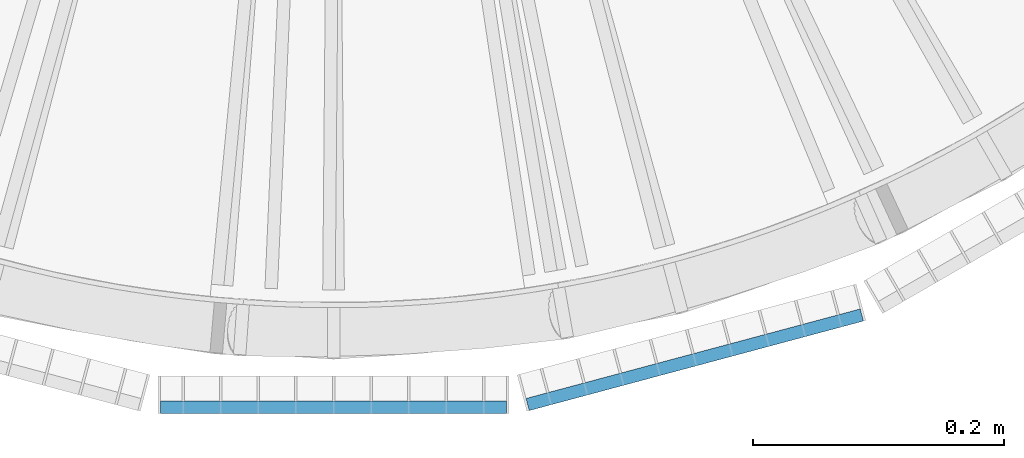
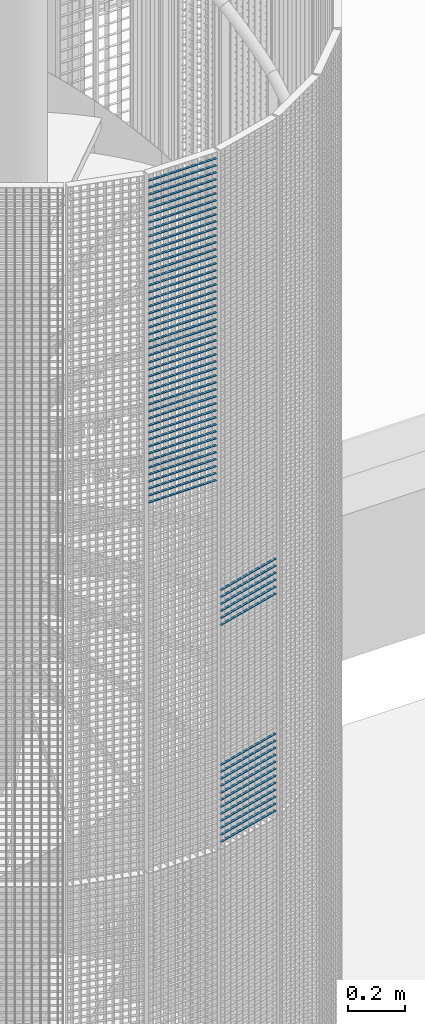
# One storey, part 135 of 1148: 65 beams, 2 elements without a shape of their own.
"""IFC2X3 building model written with IfcOpenShell, lengths in millimetres."""

from ifc_helpers import new_model, si_unit, frame, origin_with_axes, origin_2d_with_axis, place, context, subcontext, project, spatial, rectangle, extrude, material, type_object, element, aggregate, save


model = new_model("IFC2X3")

# Units and contexts
model_context = context("Model", 3, precision=1e-05, world=origin_with_axes())
body_context = subcontext(model_context, "Body", "Model", "MODEL_VIEW")
ifc_project = project(units=[si_unit("LENGTHUNIT", "METRE", prefix="MILLI"), si_unit("AREAUNIT", "SQUARE_METRE"), si_unit("VOLUMEUNIT", "CUBIC_METRE"), si_unit("MASSUNIT", "GRAM", prefix="KILO"), si_unit("TIMEUNIT", "SECOND"), si_unit("PLANEANGLEUNIT", "RADIAN"), si_unit("SOLIDANGLEUNIT", "STERADIAN"), si_unit("THERMODYNAMICTEMPERATUREUNIT", "DEGREE_CELSIUS"), si_unit("LUMINOUSINTENSITYUNIT", "LUMEN")], contexts=[model_context])

# Site, building, storey
site_placement = place(None, origin_with_axes())
site = spatial("IfcSite", under=ifc_project, at=site_placement, Name="Undefined", CompositionType="ELEMENT")
building_placement = place(site_placement, origin_with_axes())
building = spatial("IfcBuilding", under=site, at=building_placement, Name="Undefined", CompositionType="ELEMENT")
storey_placement = place(building_placement, origin_with_axes())
storey = spatial("IfcBuildingStorey", under=building, at=storey_placement, Name="Undefined", CompositionType="ELEMENT", Elevation=0.0)

# Assembly, beams
assembly_1_placement = place(storey_placement, origin_with_axes())
assembly_1 = element("IfcElementAssembly", 1, at=assembly_1_placement, inside=storey, Name="BORDURE", AssemblyPlace="NOTDEFINED", PredefinedType="NOTDEFINED")
ifc_material = material(Name="STEEL/S235JR")
beam_type = type_object("IfcBeamType", Name="PL2*10", PredefinedType="NOTDEFINED")
beam_1_placement = place(assembly_1_placement, frame((154.895926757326, -1111.25508286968, 15360.0), z_axis=(0.258819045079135, -0.965925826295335, 0.0), x_axis=(0.965925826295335, 0.258819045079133, 0.0)))
beam_1 = element("IfcBeam", 2, at=beam_1_placement, type_object=beam_type, material=ifc_material, Name="ENTRETOISE", context=body_context, shape_type="SweptSolid", body=[
    extrude(rectangle(XDim=2.0, YDim=10.0, at=origin_2d_with_axis()), frame((275.999999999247, 9.09494701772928e-13, 1.53210777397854e-14), z_axis=(-1.0, 0.0, 0.0), x_axis=(0.0, -1.0, 0.0)), (0.0, 0.0, 1.0), 276.0),
])
beam_2_placement = place(assembly_1_placement, frame((154.895926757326, -1111.25508286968, 15330.0), z_axis=(0.258819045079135, -0.965925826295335, 0.0), x_axis=(0.965925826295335, 0.258819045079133, 0.0)))
beam_2 = element("IfcBeam", 3, at=beam_2_placement, type_object=beam_type, material=ifc_material, Name="ENTRETOISE", context=body_context, shape_type="SweptSolid", body=[
    extrude(rectangle(XDim=2.0, YDim=10.0, at=origin_2d_with_axis()), frame((275.999999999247, 9.09494701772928e-13, 1.53210777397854e-14), z_axis=(-1.0, 0.0, 0.0), x_axis=(0.0, -1.0, 0.0)), (0.0, 0.0, 1.0), 276.0),
])
beam_3_placement = place(assembly_1_placement, frame((154.895926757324, -1111.25508286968, 15960.0), z_axis=(0.258819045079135, -0.965925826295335, 0.0), x_axis=(0.965925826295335, 0.258819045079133, 0.0)))
beam_3 = element("IfcBeam", 4, at=beam_3_placement, type_object=beam_type, material=ifc_material, Name="ENTRETOISE", context=body_context, shape_type="SweptSolid", body=[
    extrude(rectangle(XDim=2.0, YDim=10.0, at=origin_2d_with_axis()), frame((275.999999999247, 9.09494701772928e-13, 1.53210777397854e-14), z_axis=(-1.0, 0.0, 0.0), x_axis=(0.0, -1.0, 0.0)), (0.0, 0.0, 1.0), 276.0),
])
beam_4_placement = place(assembly_1_placement, frame((154.895926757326, -1111.25508286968, 15300.0), z_axis=(0.258819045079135, -0.965925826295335, 0.0), x_axis=(0.965925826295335, 0.258819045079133, 0.0)))
beam_4 = element("IfcBeam", 5, at=beam_4_placement, type_object=beam_type, material=ifc_material, Name="ENTRETOISE", context=body_context, shape_type="SweptSolid", body=[
    extrude(rectangle(XDim=2.0, YDim=10.0, at=origin_2d_with_axis()), frame((275.999999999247, 9.09494701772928e-13, 1.53210777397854e-14), z_axis=(-1.0, 0.0, 0.0), x_axis=(0.0, -1.0, 0.0)), (0.0, 0.0, 1.0), 276.0),
])
beam_5_placement = place(assembly_1_placement, frame((154.895926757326, -1111.25508286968, 15270.0), z_axis=(0.258819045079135, -0.965925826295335, 0.0), x_axis=(0.965925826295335, 0.258819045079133, 0.0)))
beam_5 = element("IfcBeam", 6, at=beam_5_placement, type_object=beam_type, material=ifc_material, Name="ENTRETOISE", context=body_context, shape_type="SweptSolid", body=[
    extrude(rectangle(XDim=2.0, YDim=10.0, at=origin_2d_with_axis()), frame((275.999999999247, 9.09494701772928e-13, 1.53210777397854e-14), z_axis=(-1.0, 0.0, 0.0), x_axis=(0.0, -1.0, 0.0)), (0.0, 0.0, 1.0), 276.0),
])
beam_6_placement = place(assembly_1_placement, frame((154.895926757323, -1111.25508286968, 15990.0), z_axis=(0.258819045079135, -0.965925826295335, 0.0), x_axis=(0.965925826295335, 0.258819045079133, 0.0)))
beam_6 = element("IfcBeam", 7, at=beam_6_placement, type_object=beam_type, material=ifc_material, Name="ENTRETOISE", context=body_context, shape_type="SweptSolid", body=[
    extrude(rectangle(XDim=2.0, YDim=10.0, at=origin_2d_with_axis()), frame((275.999999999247, 9.09494701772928e-13, 1.53210777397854e-14), z_axis=(-1.0, 0.0, 0.0), x_axis=(0.0, -1.0, 0.0)), (0.0, 0.0, 1.0), 276.0),
])
beam_7_placement = place(assembly_1_placement, frame((154.895926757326, -1111.25508286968, 15240.0), z_axis=(0.258819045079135, -0.965925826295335, 0.0), x_axis=(0.965925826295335, 0.258819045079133, 0.0)))
beam_7 = element("IfcBeam", 8, at=beam_7_placement, type_object=beam_type, material=ifc_material, Name="ENTRETOISE", context=body_context, shape_type="SweptSolid", body=[
    extrude(rectangle(XDim=2.0, YDim=10.0, at=origin_2d_with_axis()), frame((275.999999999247, 9.09494701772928e-13, 1.53210777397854e-14), z_axis=(-1.0, 0.0, 0.0), x_axis=(0.0, -1.0, 0.0)), (0.0, 0.0, 1.0), 276.0),
])
beam_8_placement = place(assembly_1_placement, frame((154.895926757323, -1111.25508286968, 16020.0), z_axis=(0.258819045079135, -0.965925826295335, 0.0), x_axis=(0.965925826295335, 0.258819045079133, 0.0)))
beam_8 = element("IfcBeam", 9, at=beam_8_placement, type_object=beam_type, material=ifc_material, Name="ENTRETOISE", context=body_context, shape_type="SweptSolid", body=[
    extrude(rectangle(XDim=2.0, YDim=10.0, at=origin_2d_with_axis()), frame((275.999999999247, 9.09494701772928e-13, 1.53210777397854e-14), z_axis=(-1.0, 0.0, 0.0), x_axis=(0.0, -1.0, 0.0)), (0.0, 0.0, 1.0), 276.0),
])
beam_9_placement = place(assembly_1_placement, frame((154.895926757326, -1111.25508286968, 15210.0), z_axis=(0.258819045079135, -0.965925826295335, 0.0), x_axis=(0.965925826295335, 0.258819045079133, 0.0)))
beam_9 = element("IfcBeam", 10, at=beam_9_placement, type_object=beam_type, material=ifc_material, Name="ENTRETOISE", context=body_context, shape_type="SweptSolid", body=[
    extrude(rectangle(XDim=2.0, YDim=10.0, at=origin_2d_with_axis()), frame((275.999999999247, 9.09494701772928e-13, 1.53210777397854e-14), z_axis=(-1.0, 0.0, 0.0), x_axis=(0.0, -1.0, 0.0)), (0.0, 0.0, 1.0), 276.0),
])
beam_10_placement = place(assembly_1_placement, frame((154.895926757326, -1111.25508286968, 15180.0), z_axis=(0.258819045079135, -0.965925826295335, 0.0), x_axis=(0.965925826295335, 0.258819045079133, 0.0)))
beam_10 = element("IfcBeam", 11, at=beam_10_placement, type_object=beam_type, material=ifc_material, Name="ENTRETOISE", context=body_context, shape_type="SweptSolid", body=[
    extrude(rectangle(XDim=2.0, YDim=10.0, at=origin_2d_with_axis()), frame((275.999999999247, 9.09494701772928e-13, 1.53210777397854e-14), z_axis=(-1.0, 0.0, 0.0), x_axis=(0.0, -1.0, 0.0)), (0.0, 0.0, 1.0), 276.0),
])
beam_11_placement = place(assembly_1_placement, frame((154.895926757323, -1111.25508286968, 16050.0), z_axis=(0.258819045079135, -0.965925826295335, 0.0), x_axis=(0.965925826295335, 0.258819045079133, 0.0)))
beam_11 = element("IfcBeam", 12, at=beam_11_placement, type_object=beam_type, material=ifc_material, Name="ENTRETOISE", context=body_context, shape_type="SweptSolid", body=[
    extrude(rectangle(XDim=2.0, YDim=10.0, at=origin_2d_with_axis()), frame((275.999999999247, 9.09494701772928e-13, 1.53210777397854e-14), z_axis=(-1.0, 0.0, 0.0), x_axis=(0.0, -1.0, 0.0)), (0.0, 0.0, 1.0), 276.0),
])
beam_12_placement = place(assembly_1_placement, frame((154.895926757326, -1111.25508286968, 15150.0), z_axis=(0.258819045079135, -0.965925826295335, 0.0), x_axis=(0.965925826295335, 0.258819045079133, 0.0)))
beam_12 = element("IfcBeam", 13, at=beam_12_placement, type_object=beam_type, material=ifc_material, Name="ENTRETOISE", context=body_context, shape_type="SweptSolid", body=[
    extrude(rectangle(XDim=2.0, YDim=10.0, at=origin_2d_with_axis()), frame((275.999999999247, 9.09494701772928e-13, 1.53210777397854e-14), z_axis=(-1.0, 0.0, 0.0), x_axis=(0.0, -1.0, 0.0)), (0.0, 0.0, 1.0), 276.0),
])
beam_13_placement = place(assembly_1_placement, frame((154.895926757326, -1111.25508286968, 15120.0), z_axis=(0.258819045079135, -0.965925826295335, 0.0), x_axis=(0.965925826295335, 0.258819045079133, 0.0)))
beam_13 = element("IfcBeam", 14, at=beam_13_placement, type_object=beam_type, material=ifc_material, Name="ENTRETOISE", context=body_context, shape_type="SweptSolid", body=[
    extrude(rectangle(XDim=2.0, YDim=10.0, at=origin_2d_with_axis()), frame((275.999999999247, 9.09494701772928e-13, 1.53210777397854e-14), z_axis=(-1.0, 0.0, 0.0), x_axis=(0.0, -1.0, 0.0)), (0.0, 0.0, 1.0), 276.0),
])
beam_14_placement = place(assembly_1_placement, frame((154.895926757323, -1111.25508286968, 16080.0), z_axis=(0.258819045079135, -0.965925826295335, 0.0), x_axis=(0.965925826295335, 0.258819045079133, 0.0)))
beam_14 = element("IfcBeam", 15, at=beam_14_placement, type_object=beam_type, material=ifc_material, Name="ENTRETOISE", context=body_context, shape_type="SweptSolid", body=[
    extrude(rectangle(XDim=2.0, YDim=10.0, at=origin_2d_with_axis()), frame((275.999999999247, 9.09494701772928e-13, 1.53210777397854e-14), z_axis=(-1.0, 0.0, 0.0), x_axis=(0.0, -1.0, 0.0)), (0.0, 0.0, 1.0), 276.0),
])
beam_15_placement = place(assembly_1_placement, frame((154.895926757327, -1111.25508286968, 15090.0), z_axis=(0.258819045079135, -0.965925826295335, 0.0), x_axis=(0.965925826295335, 0.258819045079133, 0.0)))
beam_15 = element("IfcBeam", 16, at=beam_15_placement, type_object=beam_type, material=ifc_material, Name="ENTRETOISE", context=body_context, shape_type="SweptSolid", body=[
    extrude(rectangle(XDim=2.0, YDim=10.0, at=origin_2d_with_axis()), frame((275.999999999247, 9.09494701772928e-13, 1.53210777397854e-14), z_axis=(-1.0, 0.0, 0.0), x_axis=(0.0, -1.0, 0.0)), (0.0, 0.0, 1.0), 276.0),
])
beam_16_placement = place(assembly_1_placement, frame((154.895926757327, -1111.25508286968, 15060.0), z_axis=(0.258819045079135, -0.965925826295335, 0.0), x_axis=(0.965925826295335, 0.258819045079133, 0.0)))
beam_16 = element("IfcBeam", 17, at=beam_16_placement, type_object=beam_type, material=ifc_material, Name="ENTRETOISE", context=body_context, shape_type="SweptSolid", body=[
    extrude(rectangle(XDim=2.0, YDim=10.0, at=origin_2d_with_axis()), frame((275.999999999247, 9.09494701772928e-13, 1.53210777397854e-14), z_axis=(-1.0, 0.0, 0.0), x_axis=(0.0, -1.0, 0.0)), (0.0, 0.0, 1.0), 276.0),
])
beam_17_placement = place(assembly_1_placement, frame((154.895926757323, -1111.25508286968, 16110.0), z_axis=(0.258819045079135, -0.965925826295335, 0.0), x_axis=(0.965925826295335, 0.258819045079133, 0.0)))
beam_17 = element("IfcBeam", 18, at=beam_17_placement, type_object=beam_type, material=ifc_material, Name="ENTRETOISE", context=body_context, shape_type="SweptSolid", body=[
    extrude(rectangle(XDim=2.0, YDim=10.0, at=origin_2d_with_axis()), frame((275.999999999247, 9.09494701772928e-13, 1.53210777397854e-14), z_axis=(-1.0, 0.0, 0.0), x_axis=(0.0, -1.0, 0.0)), (0.0, 0.0, 1.0), 276.0),
])
beam_18_placement = place(assembly_1_placement, frame((154.895926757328, -1111.25508286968, 15030.0), z_axis=(0.258819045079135, -0.965925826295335, 0.0), x_axis=(0.965925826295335, 0.258819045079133, 0.0)))
beam_18 = element("IfcBeam", 19, at=beam_18_placement, type_object=beam_type, material=ifc_material, Name="ENTRETOISE", context=body_context, shape_type="SweptSolid", body=[
    extrude(rectangle(XDim=2.0, YDim=10.0, at=origin_2d_with_axis()), frame((275.999999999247, 9.09494701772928e-13, 1.53210777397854e-14), z_axis=(-1.0, 0.0, 0.0), x_axis=(0.0, -1.0, 0.0)), (0.0, 0.0, 1.0), 276.0),
])
aggregate(assembly_1, [beam_1, beam_2, beam_3, beam_4, beam_5, beam_6, beam_7, beam_8, beam_9, beam_10, beam_11, beam_12, beam_13, beam_14, beam_15, beam_16, beam_17, beam_18])

assembly_2_placement = place(storey_placement, origin_with_axes())
assembly_2 = element("IfcElementAssembly", 20, at=assembly_2_placement, inside=storey, Name="BORDURE", AssemblyPlace="NOTDEFINED", PredefinedType="NOTDEFINED")
beam_19_placement = place(assembly_2_placement, frame((-137.996003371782, -1113.47999999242, 17970.0), z_axis=(0.0, -1.0, 0.0), x_axis=(1.0, 0.0, 0.0)))
beam_19 = element("IfcBeam", 21, at=beam_19_placement, type_object=beam_type, material=ifc_material, Name="ENTRETOISE", context=body_context, shape_type="SweptSolid", body=[
    extrude(rectangle(XDim=2.0, YDim=10.0, at=origin_2d_with_axis()), frame((275.999999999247, 9.09494701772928e-13, 1.53210777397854e-14), z_axis=(-1.0, 0.0, 0.0), x_axis=(0.0, -1.0, 0.0)), (0.0, 0.0, 1.0), 276.0),
])
beam_20_placement = place(assembly_2_placement, frame((-137.996003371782, -1113.47999999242, 17940.0), z_axis=(0.0, -1.0, 0.0), x_axis=(1.0, 0.0, 0.0)))
beam_20 = element("IfcBeam", 22, at=beam_20_placement, type_object=beam_type, material=ifc_material, Name="ENTRETOISE", context=body_context, shape_type="SweptSolid", body=[
    extrude(rectangle(XDim=2.0, YDim=10.0, at=origin_2d_with_axis()), frame((275.999999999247, 9.09494701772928e-13, 1.53210777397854e-14), z_axis=(-1.0, 0.0, 0.0), x_axis=(0.0, -1.0, 0.0)), (0.0, 0.0, 1.0), 276.0),
])
beam_21_placement = place(assembly_2_placement, frame((-137.996003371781, -1113.47999999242, 17910.0), z_axis=(0.0, -1.0, 0.0), x_axis=(1.0, 0.0, 0.0)))
beam_21 = element("IfcBeam", 23, at=beam_21_placement, type_object=beam_type, material=ifc_material, Name="ENTRETOISE", context=body_context, shape_type="SweptSolid", body=[
    extrude(rectangle(XDim=2.0, YDim=10.0, at=origin_2d_with_axis()), frame((275.999999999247, 9.09494701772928e-13, 1.53210777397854e-14), z_axis=(-1.0, 0.0, 0.0), x_axis=(0.0, -1.0, 0.0)), (0.0, 0.0, 1.0), 276.0),
])
beam_22_placement = place(assembly_2_placement, frame((-137.996003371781, -1113.47999999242, 17880.0), z_axis=(0.0, -1.0, 0.0), x_axis=(1.0, 0.0, 0.0)))
beam_22 = element("IfcBeam", 24, at=beam_22_placement, type_object=beam_type, material=ifc_material, Name="ENTRETOISE", context=body_context, shape_type="SweptSolid", body=[
    extrude(rectangle(XDim=2.0, YDim=10.0, at=origin_2d_with_axis()), frame((275.999999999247, 9.09494701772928e-13, 1.53210777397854e-14), z_axis=(-1.0, 0.0, 0.0), x_axis=(0.0, -1.0, 0.0)), (0.0, 0.0, 1.0), 276.0),
])
beam_23_placement = place(assembly_2_placement, frame((-137.996003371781, -1113.47999999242, 17850.0), z_axis=(0.0, -1.0, 0.0), x_axis=(1.0, 0.0, 0.0)))
beam_23 = element("IfcBeam", 25, at=beam_23_placement, type_object=beam_type, material=ifc_material, Name="ENTRETOISE", context=body_context, shape_type="SweptSolid", body=[
    extrude(rectangle(XDim=2.0, YDim=10.0, at=origin_2d_with_axis()), frame((275.999999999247, 9.09494701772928e-13, 1.53210777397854e-14), z_axis=(-1.0, 0.0, 0.0), x_axis=(0.0, -1.0, 0.0)), (0.0, 0.0, 1.0), 276.0),
])
beam_24_placement = place(assembly_2_placement, frame((-137.996003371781, -1113.47999999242, 17820.0), z_axis=(0.0, -1.0, 0.0), x_axis=(1.0, 0.0, 0.0)))
beam_24 = element("IfcBeam", 26, at=beam_24_placement, type_object=beam_type, material=ifc_material, Name="ENTRETOISE", context=body_context, shape_type="SweptSolid", body=[
    extrude(rectangle(XDim=2.0, YDim=10.0, at=origin_2d_with_axis()), frame((275.999999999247, 9.09494701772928e-13, 1.53210777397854e-14), z_axis=(-1.0, 0.0, 0.0), x_axis=(0.0, -1.0, 0.0)), (0.0, 0.0, 1.0), 276.0),
])
beam_25_placement = place(assembly_2_placement, frame((-137.996003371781, -1113.47999999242, 17790.0), z_axis=(0.0, -1.0, 0.0), x_axis=(1.0, 0.0, 0.0)))
beam_25 = element("IfcBeam", 27, at=beam_25_placement, type_object=beam_type, material=ifc_material, Name="ENTRETOISE", context=body_context, shape_type="SweptSolid", body=[
    extrude(rectangle(XDim=2.0, YDim=10.0, at=origin_2d_with_axis()), frame((275.999999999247, 9.09494701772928e-13, 1.53210777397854e-14), z_axis=(-1.0, 0.0, 0.0), x_axis=(0.0, -1.0, 0.0)), (0.0, 0.0, 1.0), 276.0),
])
beam_26_placement = place(assembly_2_placement, frame((-137.996003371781, -1113.47999999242, 17760.0), z_axis=(0.0, -1.0, 0.0), x_axis=(1.0, 0.0, 0.0)))
beam_26 = element("IfcBeam", 28, at=beam_26_placement, type_object=beam_type, material=ifc_material, Name="ENTRETOISE", context=body_context, shape_type="SweptSolid", body=[
    extrude(rectangle(XDim=2.0, YDim=10.0, at=origin_2d_with_axis()), frame((275.999999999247, 9.09494701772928e-13, 1.53210777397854e-14), z_axis=(-1.0, 0.0, 0.0), x_axis=(0.0, -1.0, 0.0)), (0.0, 0.0, 1.0), 276.0),
])
beam_27_placement = place(assembly_2_placement, frame((-137.996003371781, -1113.47999999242, 17730.0), z_axis=(0.0, -1.0, 0.0), x_axis=(1.0, 0.0, 0.0)))
beam_27 = element("IfcBeam", 29, at=beam_27_placement, type_object=beam_type, material=ifc_material, Name="ENTRETOISE", context=body_context, shape_type="SweptSolid", body=[
    extrude(rectangle(XDim=2.0, YDim=10.0, at=origin_2d_with_axis()), frame((275.999999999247, 9.09494701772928e-13, 1.53210777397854e-14), z_axis=(-1.0, 0.0, 0.0), x_axis=(0.0, -1.0, 0.0)), (0.0, 0.0, 1.0), 276.0),
])
beam_28_placement = place(assembly_2_placement, frame((-137.996003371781, -1113.47999999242, 17700.0), z_axis=(0.0, -1.0, 0.0), x_axis=(1.0, 0.0, 0.0)))
beam_28 = element("IfcBeam", 30, at=beam_28_placement, type_object=beam_type, material=ifc_material, Name="ENTRETOISE", context=body_context, shape_type="SweptSolid", body=[
    extrude(rectangle(XDim=2.0, YDim=10.0, at=origin_2d_with_axis()), frame((275.999999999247, 9.09494701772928e-13, 1.53210777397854e-14), z_axis=(-1.0, 0.0, 0.0), x_axis=(0.0, -1.0, 0.0)), (0.0, 0.0, 1.0), 276.0),
])
beam_29_placement = place(assembly_2_placement, frame((-137.996003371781, -1113.47999999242, 17670.0), z_axis=(0.0, -1.0, 0.0), x_axis=(1.0, 0.0, 0.0)))
beam_29 = element("IfcBeam", 31, at=beam_29_placement, type_object=beam_type, material=ifc_material, Name="ENTRETOISE", context=body_context, shape_type="SweptSolid", body=[
    extrude(rectangle(XDim=2.0, YDim=10.0, at=origin_2d_with_axis()), frame((275.999999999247, 9.09494701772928e-13, 1.53210777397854e-14), z_axis=(-1.0, 0.0, 0.0), x_axis=(0.0, -1.0, 0.0)), (0.0, 0.0, 1.0), 276.0),
])
beam_30_placement = place(assembly_2_placement, frame((-137.996003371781, -1113.47999999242, 17640.0), z_axis=(0.0, -1.0, 0.0), x_axis=(1.0, 0.0, 0.0)))
beam_30 = element("IfcBeam", 32, at=beam_30_placement, type_object=beam_type, material=ifc_material, Name="ENTRETOISE", context=body_context, shape_type="SweptSolid", body=[
    extrude(rectangle(XDim=2.0, YDim=10.0, at=origin_2d_with_axis()), frame((275.999999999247, 9.09494701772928e-13, 1.53210777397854e-14), z_axis=(-1.0, 0.0, 0.0), x_axis=(0.0, -1.0, 0.0)), (0.0, 0.0, 1.0), 276.0),
])
beam_31_placement = place(assembly_2_placement, frame((-137.99600337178, -1113.47999999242, 17610.0), z_axis=(0.0, -1.0, 0.0), x_axis=(1.0, 0.0, 0.0)))
beam_31 = element("IfcBeam", 33, at=beam_31_placement, type_object=beam_type, material=ifc_material, Name="ENTRETOISE", context=body_context, shape_type="SweptSolid", body=[
    extrude(rectangle(XDim=2.0, YDim=10.0, at=origin_2d_with_axis()), frame((275.999999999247, 9.09494701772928e-13, 1.53210777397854e-14), z_axis=(-1.0, 0.0, 0.0), x_axis=(0.0, -1.0, 0.0)), (0.0, 0.0, 1.0), 276.0),
])
beam_32_placement = place(assembly_2_placement, frame((-137.99600337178, -1113.47999999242, 17580.0), z_axis=(0.0, -1.0, 0.0), x_axis=(1.0, 0.0, 0.0)))
beam_32 = element("IfcBeam", 34, at=beam_32_placement, type_object=beam_type, material=ifc_material, Name="ENTRETOISE", context=body_context, shape_type="SweptSolid", body=[
    extrude(rectangle(XDim=2.0, YDim=10.0, at=origin_2d_with_axis()), frame((275.999999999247, 9.09494701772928e-13, 1.53210777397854e-14), z_axis=(-1.0, 0.0, 0.0), x_axis=(0.0, -1.0, 0.0)), (0.0, 0.0, 1.0), 276.0),
])
beam_33_placement = place(assembly_2_placement, frame((-137.99600337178, -1113.47999999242, 17550.0), z_axis=(0.0, -1.0, 0.0), x_axis=(1.0, 0.0, 0.0)))
beam_33 = element("IfcBeam", 35, at=beam_33_placement, type_object=beam_type, material=ifc_material, Name="ENTRETOISE", context=body_context, shape_type="SweptSolid", body=[
    extrude(rectangle(XDim=2.0, YDim=10.0, at=origin_2d_with_axis()), frame((275.999999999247, 9.09494701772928e-13, 1.53210777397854e-14), z_axis=(-1.0, 0.0, 0.0), x_axis=(0.0, -1.0, 0.0)), (0.0, 0.0, 1.0), 276.0),
])
beam_34_placement = place(assembly_2_placement, frame((-137.99600337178, -1113.47999999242, 17520.0), z_axis=(0.0, -1.0, 0.0), x_axis=(1.0, 0.0, 0.0)))
beam_34 = element("IfcBeam", 36, at=beam_34_placement, type_object=beam_type, material=ifc_material, Name="ENTRETOISE", context=body_context, shape_type="SweptSolid", body=[
    extrude(rectangle(XDim=2.0, YDim=10.0, at=origin_2d_with_axis()), frame((275.999999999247, 9.09494701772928e-13, 1.53210777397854e-14), z_axis=(-1.0, 0.0, 0.0), x_axis=(0.0, -1.0, 0.0)), (0.0, 0.0, 1.0), 276.0),
])
beam_35_placement = place(assembly_2_placement, frame((-137.99600337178, -1113.47999999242, 17490.0), z_axis=(0.0, -1.0, 0.0), x_axis=(1.0, 0.0, 0.0)))
beam_35 = element("IfcBeam", 37, at=beam_35_placement, type_object=beam_type, material=ifc_material, Name="ENTRETOISE", context=body_context, shape_type="SweptSolid", body=[
    extrude(rectangle(XDim=2.0, YDim=10.0, at=origin_2d_with_axis()), frame((275.999999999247, 9.09494701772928e-13, 1.53210777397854e-14), z_axis=(-1.0, 0.0, 0.0), x_axis=(0.0, -1.0, 0.0)), (0.0, 0.0, 1.0), 276.0),
])
beam_36_placement = place(assembly_2_placement, frame((-137.99600337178, -1113.47999999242, 17460.0), z_axis=(0.0, -1.0, 0.0), x_axis=(1.0, 0.0, 0.0)))
beam_36 = element("IfcBeam", 38, at=beam_36_placement, type_object=beam_type, material=ifc_material, Name="ENTRETOISE", context=body_context, shape_type="SweptSolid", body=[
    extrude(rectangle(XDim=2.0, YDim=10.0, at=origin_2d_with_axis()), frame((275.999999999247, 9.09494701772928e-13, 1.53210777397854e-14), z_axis=(-1.0, 0.0, 0.0), x_axis=(0.0, -1.0, 0.0)), (0.0, 0.0, 1.0), 276.0),
])
beam_37_placement = place(assembly_2_placement, frame((-137.99600337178, -1113.47999999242, 17430.0), z_axis=(0.0, -1.0, 0.0), x_axis=(1.0, 0.0, 0.0)))
beam_37 = element("IfcBeam", 39, at=beam_37_placement, type_object=beam_type, material=ifc_material, Name="ENTRETOISE", context=body_context, shape_type="SweptSolid", body=[
    extrude(rectangle(XDim=2.0, YDim=10.0, at=origin_2d_with_axis()), frame((275.999999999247, 9.09494701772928e-13, 1.53210777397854e-14), z_axis=(-1.0, 0.0, 0.0), x_axis=(0.0, -1.0, 0.0)), (0.0, 0.0, 1.0), 276.0),
])
beam_38_placement = place(assembly_2_placement, frame((-137.99600337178, -1113.47999999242, 17400.0), z_axis=(0.0, -1.0, 0.0), x_axis=(1.0, 0.0, 0.0)))
beam_38 = element("IfcBeam", 40, at=beam_38_placement, type_object=beam_type, material=ifc_material, Name="ENTRETOISE", context=body_context, shape_type="SweptSolid", body=[
    extrude(rectangle(XDim=2.0, YDim=10.0, at=origin_2d_with_axis()), frame((275.999999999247, 9.09494701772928e-13, 1.53210777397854e-14), z_axis=(-1.0, 0.0, 0.0), x_axis=(0.0, -1.0, 0.0)), (0.0, 0.0, 1.0), 276.0),
])
beam_39_placement = place(assembly_2_placement, frame((-137.99600337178, -1113.47999999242, 17370.0), z_axis=(0.0, -1.0, 0.0), x_axis=(1.0, 0.0, 0.0)))
beam_39 = element("IfcBeam", 41, at=beam_39_placement, type_object=beam_type, material=ifc_material, Name="ENTRETOISE", context=body_context, shape_type="SweptSolid", body=[
    extrude(rectangle(XDim=2.0, YDim=10.0, at=origin_2d_with_axis()), frame((275.999999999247, 9.09494701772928e-13, 1.53210777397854e-14), z_axis=(-1.0, 0.0, 0.0), x_axis=(0.0, -1.0, 0.0)), (0.0, 0.0, 1.0), 276.0),
])
beam_40_placement = place(assembly_2_placement, frame((-137.99600337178, -1113.47999999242, 17340.0), z_axis=(0.0, -1.0, 0.0), x_axis=(1.0, 0.0, 0.0)))
beam_40 = element("IfcBeam", 42, at=beam_40_placement, type_object=beam_type, material=ifc_material, Name="ENTRETOISE", context=body_context, shape_type="SweptSolid", body=[
    extrude(rectangle(XDim=2.0, YDim=10.0, at=origin_2d_with_axis()), frame((275.999999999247, 9.09494701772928e-13, 1.53210777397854e-14), z_axis=(-1.0, 0.0, 0.0), x_axis=(0.0, -1.0, 0.0)), (0.0, 0.0, 1.0), 276.0),
])
beam_41_placement = place(assembly_2_placement, frame((-137.996003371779, -1113.47999999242, 17310.0), z_axis=(0.0, -1.0, 0.0), x_axis=(1.0, 0.0, 0.0)))
beam_41 = element("IfcBeam", 43, at=beam_41_placement, type_object=beam_type, material=ifc_material, Name="ENTRETOISE", context=body_context, shape_type="SweptSolid", body=[
    extrude(rectangle(XDim=2.0, YDim=10.0, at=origin_2d_with_axis()), frame((275.999999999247, 9.09494701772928e-13, 1.53210777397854e-14), z_axis=(-1.0, 0.0, 0.0), x_axis=(0.0, -1.0, 0.0)), (0.0, 0.0, 1.0), 276.0),
])
beam_42_placement = place(assembly_2_placement, frame((-137.996003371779, -1113.47999999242, 17280.0), z_axis=(0.0, -1.0, 0.0), x_axis=(1.0, 0.0, 0.0)))
beam_42 = element("IfcBeam", 44, at=beam_42_placement, type_object=beam_type, material=ifc_material, Name="ENTRETOISE", context=body_context, shape_type="SweptSolid", body=[
    extrude(rectangle(XDim=2.0, YDim=10.0, at=origin_2d_with_axis()), frame((275.999999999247, 9.09494701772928e-13, 1.53210777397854e-14), z_axis=(-1.0, 0.0, 0.0), x_axis=(0.0, -1.0, 0.0)), (0.0, 0.0, 1.0), 276.0),
])
beam_43_placement = place(assembly_2_placement, frame((-137.996003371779, -1113.47999999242, 17250.0), z_axis=(0.0, -1.0, 0.0), x_axis=(1.0, 0.0, 0.0)))
beam_43 = element("IfcBeam", 45, at=beam_43_placement, type_object=beam_type, material=ifc_material, Name="ENTRETOISE", context=body_context, shape_type="SweptSolid", body=[
    extrude(rectangle(XDim=2.0, YDim=10.0, at=origin_2d_with_axis()), frame((275.999999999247, 9.09494701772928e-13, 1.53210777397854e-14), z_axis=(-1.0, 0.0, 0.0), x_axis=(0.0, -1.0, 0.0)), (0.0, 0.0, 1.0), 276.0),
])
beam_44_placement = place(assembly_2_placement, frame((-137.996003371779, -1113.47999999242, 17220.0), z_axis=(0.0, -1.0, 0.0), x_axis=(1.0, 0.0, 0.0)))
beam_44 = element("IfcBeam", 46, at=beam_44_placement, type_object=beam_type, material=ifc_material, Name="ENTRETOISE", context=body_context, shape_type="SweptSolid", body=[
    extrude(rectangle(XDim=2.0, YDim=10.0, at=origin_2d_with_axis()), frame((275.999999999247, 9.09494701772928e-13, 1.53210777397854e-14), z_axis=(-1.0, 0.0, 0.0), x_axis=(0.0, -1.0, 0.0)), (0.0, 0.0, 1.0), 276.0),
])
beam_45_placement = place(assembly_2_placement, frame((-137.996003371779, -1113.47999999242, 17190.0), z_axis=(0.0, -1.0, 0.0), x_axis=(1.0, 0.0, 0.0)))
beam_45 = element("IfcBeam", 47, at=beam_45_placement, type_object=beam_type, material=ifc_material, Name="ENTRETOISE", context=body_context, shape_type="SweptSolid", body=[
    extrude(rectangle(XDim=2.0, YDim=10.0, at=origin_2d_with_axis()), frame((275.999999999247, 9.09494701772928e-13, 1.53210777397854e-14), z_axis=(-1.0, 0.0, 0.0), x_axis=(0.0, -1.0, 0.0)), (0.0, 0.0, 1.0), 276.0),
])
beam_46_placement = place(assembly_2_placement, frame((-137.996003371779, -1113.47999999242, 17160.0), z_axis=(0.0, -1.0, 0.0), x_axis=(1.0, 0.0, 0.0)))
beam_46 = element("IfcBeam", 48, at=beam_46_placement, type_object=beam_type, material=ifc_material, Name="ENTRETOISE", context=body_context, shape_type="SweptSolid", body=[
    extrude(rectangle(XDim=2.0, YDim=10.0, at=origin_2d_with_axis()), frame((275.999999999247, 9.09494701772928e-13, 1.53210777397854e-14), z_axis=(-1.0, 0.0, 0.0), x_axis=(0.0, -1.0, 0.0)), (0.0, 0.0, 1.0), 276.0),
])
beam_47_placement = place(assembly_2_placement, frame((-137.996003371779, -1113.47999999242, 17130.0), z_axis=(0.0, -1.0, 0.0), x_axis=(1.0, 0.0, 0.0)))
beam_47 = element("IfcBeam", 49, at=beam_47_placement, type_object=beam_type, material=ifc_material, Name="ENTRETOISE", context=body_context, shape_type="SweptSolid", body=[
    extrude(rectangle(XDim=2.0, YDim=10.0, at=origin_2d_with_axis()), frame((275.999999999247, 9.09494701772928e-13, 1.53210777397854e-14), z_axis=(-1.0, 0.0, 0.0), x_axis=(0.0, -1.0, 0.0)), (0.0, 0.0, 1.0), 276.0),
])
beam_48_placement = place(assembly_2_placement, frame((-137.996003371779, -1113.47999999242, 17100.0), z_axis=(0.0, -1.0, 0.0), x_axis=(1.0, 0.0, 0.0)))
beam_48 = element("IfcBeam", 50, at=beam_48_placement, type_object=beam_type, material=ifc_material, Name="ENTRETOISE", context=body_context, shape_type="SweptSolid", body=[
    extrude(rectangle(XDim=2.0, YDim=10.0, at=origin_2d_with_axis()), frame((275.999999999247, 9.09494701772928e-13, 1.53210777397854e-14), z_axis=(-1.0, 0.0, 0.0), x_axis=(0.0, -1.0, 0.0)), (0.0, 0.0, 1.0), 276.0),
])
beam_49_placement = place(assembly_2_placement, frame((-137.996003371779, -1113.47999999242, 17070.0), z_axis=(0.0, -1.0, 0.0), x_axis=(1.0, 0.0, 0.0)))
beam_49 = element("IfcBeam", 51, at=beam_49_placement, type_object=beam_type, material=ifc_material, Name="ENTRETOISE", context=body_context, shape_type="SweptSolid", body=[
    extrude(rectangle(XDim=2.0, YDim=10.0, at=origin_2d_with_axis()), frame((275.999999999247, 9.09494701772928e-13, 1.53210777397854e-14), z_axis=(-1.0, 0.0, 0.0), x_axis=(0.0, -1.0, 0.0)), (0.0, 0.0, 1.0), 276.0),
])
beam_50_placement = place(assembly_2_placement, frame((-137.996003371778, -1113.47999999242, 17040.0), z_axis=(0.0, -1.0, 0.0), x_axis=(1.0, 0.0, 0.0)))
beam_50 = element("IfcBeam", 52, at=beam_50_placement, type_object=beam_type, material=ifc_material, Name="ENTRETOISE", context=body_context, shape_type="SweptSolid", body=[
    extrude(rectangle(XDim=2.0, YDim=10.0, at=origin_2d_with_axis()), frame((275.999999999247, 9.09494701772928e-13, 1.53210777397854e-14), z_axis=(-1.0, 0.0, 0.0), x_axis=(0.0, -1.0, 0.0)), (0.0, 0.0, 1.0), 276.0),
])
beam_51_placement = place(assembly_2_placement, frame((-137.996003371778, -1113.47999999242, 17010.0), z_axis=(0.0, -1.0, 0.0), x_axis=(1.0, 0.0, 0.0)))
beam_51 = element("IfcBeam", 53, at=beam_51_placement, type_object=beam_type, material=ifc_material, Name="ENTRETOISE", context=body_context, shape_type="SweptSolid", body=[
    extrude(rectangle(XDim=2.0, YDim=10.0, at=origin_2d_with_axis()), frame((275.999999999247, 9.09494701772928e-13, 1.53210777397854e-14), z_axis=(-1.0, 0.0, 0.0), x_axis=(0.0, -1.0, 0.0)), (0.0, 0.0, 1.0), 276.0),
])
beam_52_placement = place(assembly_2_placement, frame((-137.996003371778, -1113.47999999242, 16980.0), z_axis=(0.0, -1.0, 0.0), x_axis=(1.0, 0.0, 0.0)))
beam_52 = element("IfcBeam", 54, at=beam_52_placement, type_object=beam_type, material=ifc_material, Name="ENTRETOISE", context=body_context, shape_type="SweptSolid", body=[
    extrude(rectangle(XDim=2.0, YDim=10.0, at=origin_2d_with_axis()), frame((275.999999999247, 9.09494701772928e-13, 1.53210777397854e-14), z_axis=(-1.0, 0.0, 0.0), x_axis=(0.0, -1.0, 0.0)), (0.0, 0.0, 1.0), 276.0),
])
beam_53_placement = place(assembly_2_placement, frame((-137.996003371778, -1113.47999999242, 16950.0), z_axis=(0.0, -1.0, 0.0), x_axis=(1.0, 0.0, 0.0)))
beam_53 = element("IfcBeam", 55, at=beam_53_placement, type_object=beam_type, material=ifc_material, Name="ENTRETOISE", context=body_context, shape_type="SweptSolid", body=[
    extrude(rectangle(XDim=2.0, YDim=10.0, at=origin_2d_with_axis()), frame((275.999999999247, 9.09494701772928e-13, 1.53210777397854e-14), z_axis=(-1.0, 0.0, 0.0), x_axis=(0.0, -1.0, 0.0)), (0.0, 0.0, 1.0), 276.0),
])
beam_54_placement = place(assembly_2_placement, frame((-137.996003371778, -1113.47999999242, 16920.0), z_axis=(0.0, -1.0, 0.0), x_axis=(1.0, 0.0, 0.0)))
beam_54 = element("IfcBeam", 56, at=beam_54_placement, type_object=beam_type, material=ifc_material, Name="ENTRETOISE", context=body_context, shape_type="SweptSolid", body=[
    extrude(rectangle(XDim=2.0, YDim=10.0, at=origin_2d_with_axis()), frame((275.999999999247, 9.09494701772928e-13, 1.53210777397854e-14), z_axis=(-1.0, 0.0, 0.0), x_axis=(0.0, -1.0, 0.0)), (0.0, 0.0, 1.0), 276.0),
])
beam_55_placement = place(assembly_2_placement, frame((-137.996003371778, -1113.47999999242, 16890.0), z_axis=(0.0, -1.0, 0.0), x_axis=(1.0, 0.0, 0.0)))
beam_55 = element("IfcBeam", 57, at=beam_55_placement, type_object=beam_type, material=ifc_material, Name="ENTRETOISE", context=body_context, shape_type="SweptSolid", body=[
    extrude(rectangle(XDim=2.0, YDim=10.0, at=origin_2d_with_axis()), frame((275.999999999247, 9.09494701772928e-13, 1.53210777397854e-14), z_axis=(-1.0, 0.0, 0.0), x_axis=(0.0, -1.0, 0.0)), (0.0, 0.0, 1.0), 276.0),
])
beam_56_placement = place(assembly_2_placement, frame((-137.996003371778, -1113.47999999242, 16860.0), z_axis=(0.0, -1.0, 0.0), x_axis=(1.0, 0.0, 0.0)))
beam_56 = element("IfcBeam", 58, at=beam_56_placement, type_object=beam_type, material=ifc_material, Name="ENTRETOISE", context=body_context, shape_type="SweptSolid", body=[
    extrude(rectangle(XDim=2.0, YDim=10.0, at=origin_2d_with_axis()), frame((275.999999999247, 9.09494701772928e-13, 1.53210777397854e-14), z_axis=(-1.0, 0.0, 0.0), x_axis=(0.0, -1.0, 0.0)), (0.0, 0.0, 1.0), 276.0),
])
beam_57_placement = place(assembly_2_placement, frame((-137.996003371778, -1113.47999999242, 16830.0), z_axis=(0.0, -1.0, 0.0), x_axis=(1.0, 0.0, 0.0)))
beam_57 = element("IfcBeam", 59, at=beam_57_placement, type_object=beam_type, material=ifc_material, Name="ENTRETOISE", context=body_context, shape_type="SweptSolid", body=[
    extrude(rectangle(XDim=2.0, YDim=10.0, at=origin_2d_with_axis()), frame((275.999999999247, 9.09494701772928e-13, 1.53210777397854e-14), z_axis=(-1.0, 0.0, 0.0), x_axis=(0.0, -1.0, 0.0)), (0.0, 0.0, 1.0), 276.0),
])
beam_58_placement = place(assembly_2_placement, frame((-137.996003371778, -1113.47999999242, 16800.0), z_axis=(0.0, -1.0, 0.0), x_axis=(1.0, 0.0, 0.0)))
beam_58 = element("IfcBeam", 60, at=beam_58_placement, type_object=beam_type, material=ifc_material, Name="ENTRETOISE", context=body_context, shape_type="SweptSolid", body=[
    extrude(rectangle(XDim=2.0, YDim=10.0, at=origin_2d_with_axis()), frame((275.999999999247, 9.09494701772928e-13, 1.53210777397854e-14), z_axis=(-1.0, 0.0, 0.0), x_axis=(0.0, -1.0, 0.0)), (0.0, 0.0, 1.0), 276.0),
])
beam_59_placement = place(assembly_2_placement, frame((-137.996003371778, -1113.47999999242, 16770.0), z_axis=(0.0, -1.0, 0.0), x_axis=(1.0, 0.0, 0.0)))
beam_59 = element("IfcBeam", 61, at=beam_59_placement, type_object=beam_type, material=ifc_material, Name="ENTRETOISE", context=body_context, shape_type="SweptSolid", body=[
    extrude(rectangle(XDim=2.0, YDim=10.0, at=origin_2d_with_axis()), frame((275.999999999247, 9.09494701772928e-13, 1.53210777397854e-14), z_axis=(-1.0, 0.0, 0.0), x_axis=(0.0, -1.0, 0.0)), (0.0, 0.0, 1.0), 276.0),
])
beam_60_placement = place(assembly_2_placement, frame((-137.996003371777, -1113.47999999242, 16740.0), z_axis=(0.0, -1.0, 0.0), x_axis=(1.0, 0.0, 0.0)))
beam_60 = element("IfcBeam", 62, at=beam_60_placement, type_object=beam_type, material=ifc_material, Name="ENTRETOISE", context=body_context, shape_type="SweptSolid", body=[
    extrude(rectangle(XDim=2.0, YDim=10.0, at=origin_2d_with_axis()), frame((275.999999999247, 9.09494701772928e-13, 1.53210777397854e-14), z_axis=(-1.0, 0.0, 0.0), x_axis=(0.0, -1.0, 0.0)), (0.0, 0.0, 1.0), 276.0),
])
beam_61_placement = place(assembly_2_placement, frame((-137.996003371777, -1113.47999999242, 16710.0), z_axis=(0.0, -1.0, 0.0), x_axis=(1.0, 0.0, 0.0)))
beam_61 = element("IfcBeam", 63, at=beam_61_placement, type_object=beam_type, material=ifc_material, Name="ENTRETOISE", context=body_context, shape_type="SweptSolid", body=[
    extrude(rectangle(XDim=2.0, YDim=10.0, at=origin_2d_with_axis()), frame((275.999999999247, 9.09494701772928e-13, 1.53210777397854e-14), z_axis=(-1.0, 0.0, 0.0), x_axis=(0.0, -1.0, 0.0)), (0.0, 0.0, 1.0), 276.0),
])
beam_62_placement = place(assembly_2_placement, frame((-137.996003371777, -1113.47999999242, 16680.0), z_axis=(0.0, -1.0, 0.0), x_axis=(1.0, 0.0, 0.0)))
beam_62 = element("IfcBeam", 64, at=beam_62_placement, type_object=beam_type, material=ifc_material, Name="ENTRETOISE", context=body_context, shape_type="SweptSolid", body=[
    extrude(rectangle(XDim=2.0, YDim=10.0, at=origin_2d_with_axis()), frame((275.999999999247, 9.09494701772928e-13, 1.53210777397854e-14), z_axis=(-1.0, 0.0, 0.0), x_axis=(0.0, -1.0, 0.0)), (0.0, 0.0, 1.0), 276.0),
])
beam_63_placement = place(assembly_2_placement, frame((-137.996003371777, -1113.47999999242, 16650.0), z_axis=(0.0, -1.0, 0.0), x_axis=(1.0, 0.0, 0.0)))
beam_63 = element("IfcBeam", 65, at=beam_63_placement, type_object=beam_type, material=ifc_material, Name="ENTRETOISE", context=body_context, shape_type="SweptSolid", body=[
    extrude(rectangle(XDim=2.0, YDim=10.0, at=origin_2d_with_axis()), frame((275.999999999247, 9.09494701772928e-13, 1.53210777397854e-14), z_axis=(-1.0, 0.0, 0.0), x_axis=(0.0, -1.0, 0.0)), (0.0, 0.0, 1.0), 276.0),
])
beam_64_placement = place(assembly_2_placement, frame((-137.996003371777, -1113.47999999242, 16620.0), z_axis=(0.0, -1.0, 0.0), x_axis=(1.0, 0.0, 0.0)))
beam_64 = element("IfcBeam", 66, at=beam_64_placement, type_object=beam_type, material=ifc_material, Name="ENTRETOISE", context=body_context, shape_type="SweptSolid", body=[
    extrude(rectangle(XDim=2.0, YDim=10.0, at=origin_2d_with_axis()), frame((275.999999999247, 9.09494701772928e-13, 1.53210777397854e-14), z_axis=(-1.0, 0.0, 0.0), x_axis=(0.0, -1.0, 0.0)), (0.0, 0.0, 1.0), 276.0),
])
beam_65_placement = place(assembly_2_placement, frame((-137.996003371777, -1113.47999999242, 16590.0), z_axis=(0.0, -1.0, 0.0), x_axis=(1.0, 0.0, 0.0)))
beam_65 = element("IfcBeam", 67, at=beam_65_placement, type_object=beam_type, material=ifc_material, Name="ENTRETOISE", context=body_context, shape_type="SweptSolid", body=[
    extrude(rectangle(XDim=2.0, YDim=10.0, at=origin_2d_with_axis()), frame((275.999999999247, 9.09494701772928e-13, 1.53210777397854e-14), z_axis=(-1.0, 0.0, 0.0), x_axis=(0.0, -1.0, 0.0)), (0.0, 0.0, 1.0), 276.0),
])
aggregate(assembly_2, [beam_19, beam_20, beam_21, beam_22, beam_23, beam_24, beam_25, beam_26, beam_27, beam_28, beam_29, beam_30, beam_31, beam_32, beam_33, beam_34, beam_35, beam_36, beam_37, beam_38, beam_39, beam_40, beam_41, beam_42, beam_43, beam_44, beam_45, beam_46, beam_47, beam_48, beam_49, beam_50, beam_51, beam_52, beam_53, beam_54, beam_55, beam_56, beam_57, beam_58, beam_59, beam_60, beam_61, beam_62, beam_63, beam_64, beam_65])

save(model, "model.ifc")
